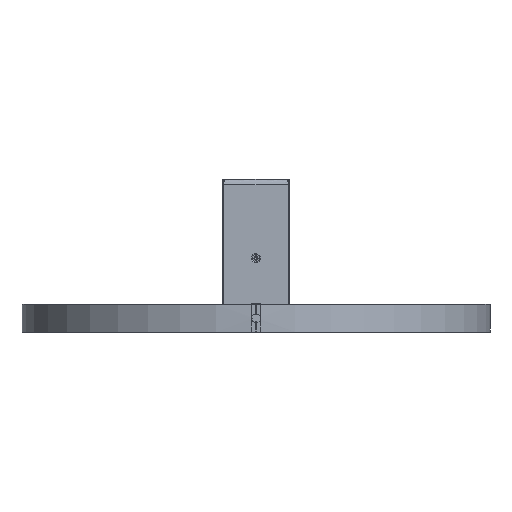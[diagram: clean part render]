
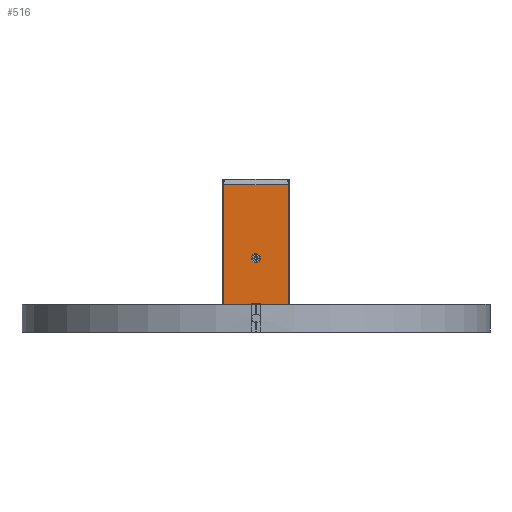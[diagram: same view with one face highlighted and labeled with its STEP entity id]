
A CAD part, left-side view. The second image highlights one B-rep face of the part: STEP entity #516.
In plain terms, the highlighted planar face has unit normal (-1, 0, 0) as drawn and (0, 1, 0) by its records, which use the part's own axes.
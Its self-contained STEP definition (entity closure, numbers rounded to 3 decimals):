
#37=FACE_BOUND('',#1509,.T.);
#516=ADVANCED_FACE('',(#1001,#37),#7187,.T.);
#1001=FACE_OUTER_BOUND('',#1508,.T.);
#1508=EDGE_LOOP('',(#3580,#3581,#3582,#3583,#3584,#3585));
#1509=EDGE_LOOP('',(#3586,#3587));
#3580=ORIENTED_EDGE('',*,*,#4964,.T.);
#3581=ORIENTED_EDGE('',*,*,#4963,.T.);
#3582=ORIENTED_EDGE('',*,*,#4996,.T.);
#3583=ORIENTED_EDGE('',*,*,#4953,.F.);
#3584=ORIENTED_EDGE('',*,*,#4998,.T.);
#3585=ORIENTED_EDGE('',*,*,#4960,.F.);
#3586=ORIENTED_EDGE('',*,*,#5020,.T.);
#3587=ORIENTED_EDGE('',*,*,#4916,.T.);
#4916=EDGE_CURVE('',#6918,#6917,#5639,.T.);
#4953=EDGE_CURVE('',#6959,#6960,#6203,.T.);
#4960=EDGE_CURVE('',#6967,#6968,#6210,.T.);
#4963=EDGE_CURVE('',#6969,#6970,#6213,.T.);
#4964=EDGE_CURVE('',#6967,#6969,#6214,.T.);
#4996=EDGE_CURVE('',#6970,#6960,#5658,.T.);
#4998=EDGE_CURVE('',#6959,#6968,#5660,.T.);
#5020=EDGE_CURVE('',#6917,#6918,#5675,.T.);
#5639=(
BOUNDED_CURVE()
B_SPLINE_CURVE(2,(#22522,#22523,#22524,#22525,#22526),.UNSPECIFIED.,.F.,
 .F.)
B_SPLINE_CURVE_WITH_KNOTS((3,2,3),(-14.765,-7.383,0.),
 .UNSPECIFIED.)
CURVE()
GEOMETRIC_REPRESENTATION_ITEM()
RATIONAL_B_SPLINE_CURVE((1.,0.707,1.,0.707,1.))
REPRESENTATION_ITEM('')
);
#5658=(
BOUNDED_CURVE()
B_SPLINE_CURVE(2,(#22729,#22730,#22731),.UNSPECIFIED.,.F.,.F.)
B_SPLINE_CURVE_WITH_KNOTS((3,3),(-3.142,0.),.UNSPECIFIED.)
CURVE()
GEOMETRIC_REPRESENTATION_ITEM()
RATIONAL_B_SPLINE_CURVE((1.,0.707,1.))
REPRESENTATION_ITEM('')
);
#5660=(
BOUNDED_CURVE()
B_SPLINE_CURVE(2,(#22735,#22736,#22737),.UNSPECIFIED.,.F.,.F.)
B_SPLINE_CURVE_WITH_KNOTS((3,3),(-3.142,0.),.UNSPECIFIED.)
CURVE()
GEOMETRIC_REPRESENTATION_ITEM()
RATIONAL_B_SPLINE_CURVE((1.,0.707,1.))
REPRESENTATION_ITEM('')
);
#5675=(
BOUNDED_CURVE()
B_SPLINE_CURVE(2,(#22810,#22811,#22812,#22813,#22814),.UNSPECIFIED.,.F.,
 .F.)
B_SPLINE_CURVE_WITH_KNOTS((3,2,3),(-14.765,-7.383,0.),
 .UNSPECIFIED.)
CURVE()
GEOMETRIC_REPRESENTATION_ITEM()
RATIONAL_B_SPLINE_CURVE((1.,0.707,1.,0.707,1.))
REPRESENTATION_ITEM('')
);
#6203=B_SPLINE_CURVE_WITH_KNOTS('',1,(#22610,#22611),.UNSPECIFIED.,.F.,
 .F.,(2,2),(0.,64.9),.UNSPECIFIED.);
#6210=B_SPLINE_CURVE_WITH_KNOTS('',1,(#22624,#22625),.UNSPECIFIED.,.F.,
 .F.,(2,2),(0.,127.8),.UNSPECIFIED.);
#6213=B_SPLINE_CURVE_WITH_KNOTS('',1,(#22630,#22631),.UNSPECIFIED.,.F.,
 .F.,(2,2),(0.,127.8),.UNSPECIFIED.);
#6214=B_SPLINE_CURVE_WITH_KNOTS('',1,(#22632,#22633),.UNSPECIFIED.,.F.,
 .F.,(2,2),(0.,68.9),.UNSPECIFIED.);
#6917=VERTEX_POINT('',#22449);
#6918=VERTEX_POINT('',#22450);
#6959=VERTEX_POINT('',#22491);
#6960=VERTEX_POINT('',#22492);
#6967=VERTEX_POINT('',#22499);
#6968=VERTEX_POINT('',#22500);
#6969=VERTEX_POINT('',#22501);
#6970=VERTEX_POINT('',#22502);
#7187=PLANE('',#7885);
#7885=AXIS2_PLACEMENT_3D('',#22153,#8119,$);
#8119=DIRECTION('',(0.,1.,0.));
#22153=CARTESIAN_POINT('',(-7.28,0.,-41.34));
#22449=CARTESIAN_POINT('',(84.2,0.,-4.7));
#22450=CARTESIAN_POINT('',(84.2,0.,4.7));
#22491=CARTESIAN_POINT('',(135.5,0.,-32.45));
#22492=CARTESIAN_POINT('',(135.5,0.,32.45));
#22499=CARTESIAN_POINT('',(5.7,0.,-34.45));
#22500=CARTESIAN_POINT('',(133.5,0.,-34.45));
#22501=CARTESIAN_POINT('',(5.7,0.,34.45));
#22502=CARTESIAN_POINT('',(133.5,0.,34.45));
#22522=CARTESIAN_POINT('',(84.2,0.,4.7));
#22523=CARTESIAN_POINT('',(79.5,0.,4.7));
#22524=CARTESIAN_POINT('',(79.5,0.,0.));
#22525=CARTESIAN_POINT('',(79.5,0.,-4.7));
#22526=CARTESIAN_POINT('',(84.2,0.,-4.7));
#22610=CARTESIAN_POINT('',(135.5,0.,-32.45));
#22611=CARTESIAN_POINT('',(135.5,0.,32.45));
#22624=CARTESIAN_POINT('',(5.7,0.,-34.45));
#22625=CARTESIAN_POINT('',(133.5,0.,-34.45));
#22630=CARTESIAN_POINT('',(5.7,0.,34.45));
#22631=CARTESIAN_POINT('',(133.5,0.,34.45));
#22632=CARTESIAN_POINT('',(5.7,0.,-34.45));
#22633=CARTESIAN_POINT('',(5.7,0.,34.45));
#22729=CARTESIAN_POINT('',(133.5,0.,34.45));
#22730=CARTESIAN_POINT('',(135.5,0.,34.45));
#22731=CARTESIAN_POINT('',(135.5,0.,32.45));
#22735=CARTESIAN_POINT('',(135.5,0.,-32.45));
#22736=CARTESIAN_POINT('',(135.5,0.,-34.45));
#22737=CARTESIAN_POINT('',(133.5,0.,-34.45));
#22810=CARTESIAN_POINT('',(84.2,0.,-4.7));
#22811=CARTESIAN_POINT('',(88.9,0.,-4.7));
#22812=CARTESIAN_POINT('',(88.9,0.,0.));
#22813=CARTESIAN_POINT('',(88.9,0.,4.7));
#22814=CARTESIAN_POINT('',(84.2,0.,4.7));
